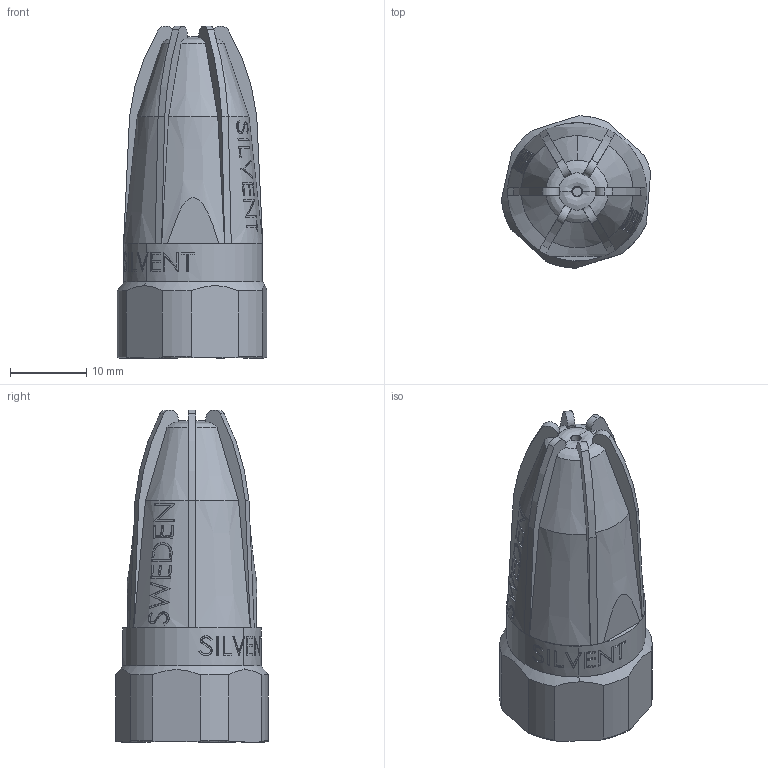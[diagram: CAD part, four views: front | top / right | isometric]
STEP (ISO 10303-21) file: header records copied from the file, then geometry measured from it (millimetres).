
FILE_DESCRIPTION (( 'STEP AP203' ), '1' );
FILE_NAME ('SILVENT 208 L-S.STEP', '2019-11-11T06:01:23', ( '' ), ( '' ), 'SwSTEP 2.0', 'SolidWorks 2016', '' );
FILE_SCHEMA (( 'CONFIG_CONTROL_DESIGN' ));
Length unit declared in the file: millimetre
Products named in the file (5): 69129_NPT; Silvent 2120L-S; SILVENT 208 L-S
Assembly tree (2 placements, depth 2):
  69129_NPT
  Silvent 2120L-S
  SILVENT 208 L-S
    Silvent 2120L-S
    69129_NPT
Bounding box: 19.64 x 20.06 x 43.65 mm (x, y, z)
Volume: 6523.8 mm3; surface area: 5008.8 mm2
Topology: 2 solids, 2 shells, 422 faces, 1149 edges, 764 vertices
Faces by surface type: plane 257, bspline 92, cylinder 49, cone 22, torus 2
Entity records: 17250 total; most frequent: CARTESIAN_POINT 7040, ORIENTED_EDGE 2298, DIRECTION 1656, EDGE_CURVE 1149, VERTEX_POINT 764, VECTOR 562, LINE 562, AXIS2_PLACEMENT_3D 547
